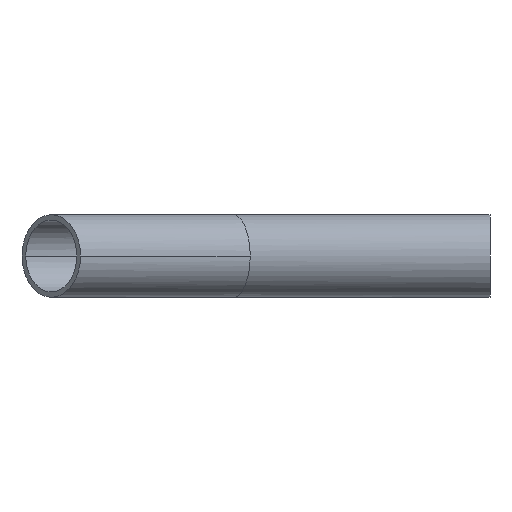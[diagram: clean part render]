
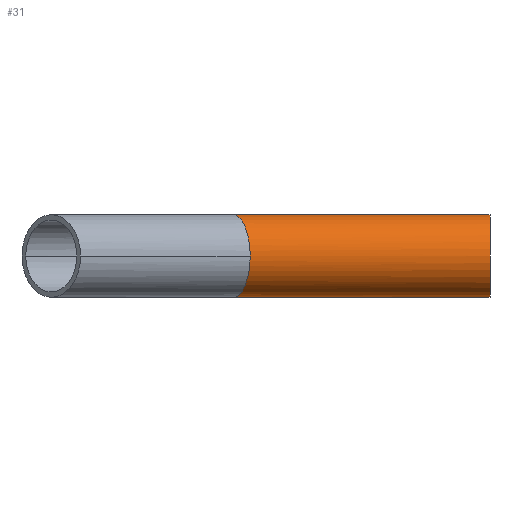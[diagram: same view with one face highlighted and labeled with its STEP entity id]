
A CAD part, left-side view. The second image highlights one B-rep face of the part: STEP entity #31.
In plain terms, the highlighted cylindrical face has radius 12.7 mm (diameter 25.4 mm), a partial arc.
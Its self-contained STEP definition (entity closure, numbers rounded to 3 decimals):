
#3 = CARTESIAN_POINT ( 'NONE',  ( 0., 0., 12.7 ) ) ;
#4 = ORIENTED_EDGE ( 'NONE', *, *, #380, .T. ) ;
#5 = VERTEX_POINT ( 'NONE', #490 ) ;
#8 = DIRECTION ( 'NONE',  ( 0., 0., 1. ) ) ;
#31 = ADVANCED_FACE ( 'NONE', ( #314 ), #394, .T. ) ;
#52 = VECTOR ( 'NONE', #72, 1000. ) ;
#54 = ORIENTED_EDGE ( 'NONE', *, *, #234, .T. ) ;
#69 = ORIENTED_EDGE ( 'NONE', *, *, #366, .T. ) ;
#72 = DIRECTION ( 'NONE',  ( 0., 1., 0. ) ) ;
#82 = ORIENTED_EDGE ( 'NONE', *, *, #467, .F. ) ;
#97 = CARTESIAN_POINT ( 'NONE',  ( -12.7, -5.261, 0. ) ) ;
#161 = CARTESIAN_POINT ( 'NONE',  ( -12.7, -5.261, 0. ) ) ;
#163 = CARTESIAN_POINT ( 'NONE',  ( -12.7, -5.261, 7.439 ) ) ;
#169 = AXIS2_PLACEMENT_3D ( 'NONE', #239, #279, #8 ) ;
#177 = EDGE_CURVE ( 'NONE', #199, #389, #185, .T. ) ;
#185 =( BOUNDED_CURVE ( )  B_SPLINE_CURVE ( 3, ( #3, #201, #163, #161 ),
 .UNSPECIFIED., .F., .T. ) 
 B_SPLINE_CURVE_WITH_KNOTS ( ( 4, 4 ),
 ( 4.712, 6.283 ),
 .UNSPECIFIED. ) 
 CURVE ( )  GEOMETRIC_REPRESENTATION_ITEM ( )  RATIONAL_B_SPLINE_CURVE ( ( 1., 0.805, 0.805, 1. ) ) 
 REPRESENTATION_ITEM ( '' )  );
#199 = VERTEX_POINT ( 'NONE', #269 ) ;
#201 = CARTESIAN_POINT ( 'NONE',  ( -7.439, -3.082, 12.7 ) ) ;
#205 = CARTESIAN_POINT ( 'NONE',  ( 0., -78.9, -12.7 ) ) ;
#211 = VERTEX_POINT ( 'NONE', #205 ) ;
#217 = VERTEX_POINT ( 'NONE', #382 ) ;
#234 = EDGE_CURVE ( 'NONE', #5, #199, #244, .T. ) ;
#239 = CARTESIAN_POINT ( 'NONE',  ( 0., -78.9, 0. ) ) ;
#244 = LINE ( 'NONE', #425, #52 ) ;
#258 = DIRECTION ( 'NONE',  ( 0., 0., 1. ) ) ;
#269 = CARTESIAN_POINT ( 'NONE',  ( 0., 0., 12.7 ) ) ;
#275 = AXIS2_PLACEMENT_3D ( 'NONE', #448, #444, #258 ) ;
#279 = DIRECTION ( 'NONE',  ( 0., 1., 0. ) ) ;
#304 =( BOUNDED_CURVE ( )  B_SPLINE_CURVE ( 3, ( #472, #475, #443, #419 ),
 .UNSPECIFIED., .F., .T. ) 
 B_SPLINE_CURVE_WITH_KNOTS ( ( 4, 4 ),
 ( 0., 1.571 ),
 .UNSPECIFIED. ) 
 CURVE ( )  GEOMETRIC_REPRESENTATION_ITEM ( )  RATIONAL_B_SPLINE_CURVE ( ( 1., 0.805, 0.805, 1. ) ) 
 REPRESENTATION_ITEM ( '' )  );
#314 = FACE_OUTER_BOUND ( 'NONE', #378, .T. ) ;
#355 = LINE ( 'NONE', #499, #377 ) ;
#366 = EDGE_CURVE ( 'NONE', #211, #5, #381, .T. ) ;
#376 = ORIENTED_EDGE ( 'NONE', *, *, #177, .T. ) ;
#377 = VECTOR ( 'NONE', #398, 1000. ) ;
#378 = EDGE_LOOP ( 'NONE', ( #82, #69, #54, #376, #4 ) ) ;
#380 = EDGE_CURVE ( 'NONE', #389, #217, #304, .T. ) ;
#381 = CIRCLE ( 'NONE', #275, 12.7 ) ;
#382 = CARTESIAN_POINT ( 'NONE',  ( 0., 0., -12.7 ) ) ;
#389 = VERTEX_POINT ( 'NONE', #97 ) ;
#394 = CYLINDRICAL_SURFACE ( 'NONE', #169, 12.7 ) ;
#398 = DIRECTION ( 'NONE',  ( 0., 1., 0. ) ) ;
#419 = CARTESIAN_POINT ( 'NONE',  ( 0., 0., -12.7 ) ) ;
#425 = CARTESIAN_POINT ( 'NONE',  ( 0., -78.9, 12.7 ) ) ;
#443 = CARTESIAN_POINT ( 'NONE',  ( -7.439, -3.082, -12.7 ) ) ;
#444 = DIRECTION ( 'NONE',  ( 0., 1., 0. ) ) ;
#448 = CARTESIAN_POINT ( 'NONE',  ( 0., -78.9, 0. ) ) ;
#467 = EDGE_CURVE ( 'NONE', #211, #217, #355, .T. ) ;
#472 = CARTESIAN_POINT ( 'NONE',  ( -12.7, -5.261, 0. ) ) ;
#475 = CARTESIAN_POINT ( 'NONE',  ( -12.7, -5.261, -7.439 ) ) ;
#490 = CARTESIAN_POINT ( 'NONE',  ( 0., -78.9, 12.7 ) ) ;
#499 = CARTESIAN_POINT ( 'NONE',  ( 0., -78.9, -12.7 ) ) ;
